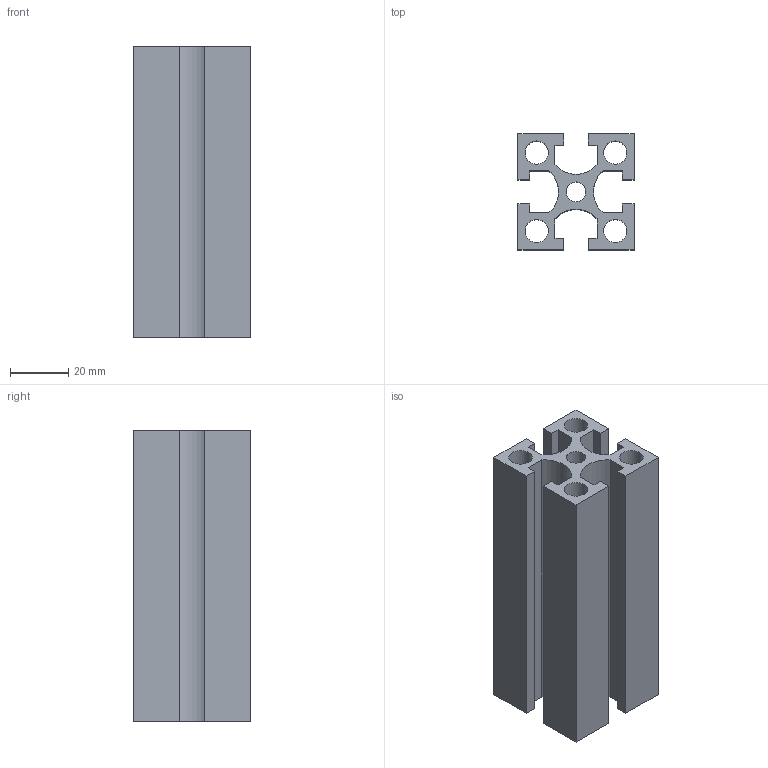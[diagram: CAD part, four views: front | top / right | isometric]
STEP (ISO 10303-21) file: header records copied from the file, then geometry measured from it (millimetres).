
FILE_DESCRIPTION(/* description */ ('Unknown'),/* implementation_level */ '2;1');
FILE_NAME(/* name */ 'NM4040',/* time_stamp */ '2026-08-31T11:34:32+08:00',/* author */ ('Unknown'),/* organization */ ('Unknown'),/* preprocessor_version */ 'ST-DEVELOPER v16.7',/* originating_system */ 'DEX',/* authorisation */ $);
FILE_SCHEMA (('AUTOMOTIVE_DESIGN {1 0 10303 214 3 1 1}'));
Length unit declared in the file: millimetre
Products named in the file (1): 4040-
Bounding box: 40 x 40 x 100 mm (x, y, z)
Volume: 70777.5 mm3; surface area: 43794.4 mm2
Topology: 1 solids, 1 shells, 43 faces, 123 edges, 82 vertices
Faces by surface type: plane 34, cylinder 9
Full cylindrical faces by diameter (mm): 6.8 x1, 8 x4
Entity records: 1420 total; most frequent: CARTESIAN_POINT 244, ORIENTED_EDGE 236, DIRECTION 224, EDGE_CURVE 118, LINE 100, VECTOR 100, VERTEX_POINT 82, AXIS2_PLACEMENT_3D 62
